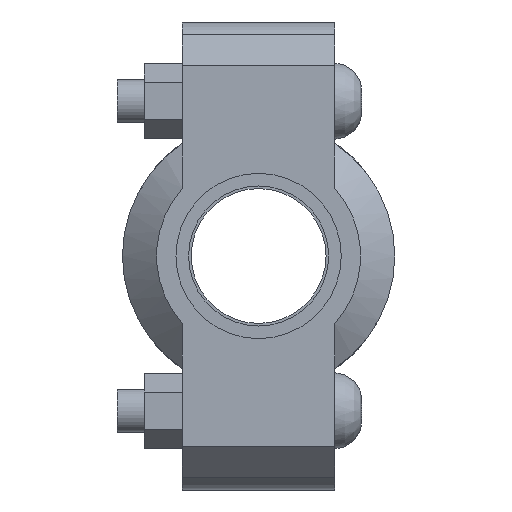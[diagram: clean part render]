
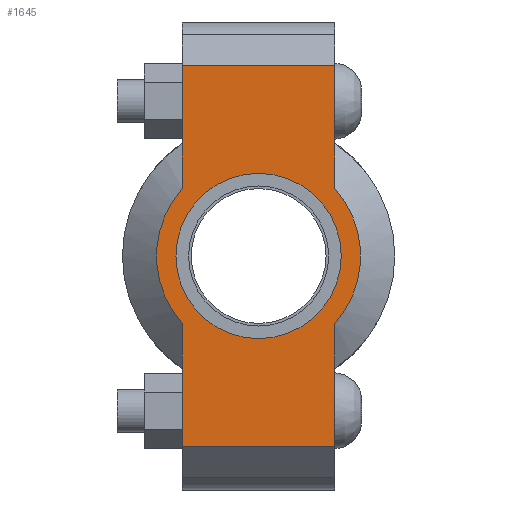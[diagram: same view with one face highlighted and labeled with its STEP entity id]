
A CAD part, left-side view. The second image highlights one B-rep face of the part: STEP entity #1645.
In plain terms, the highlighted planar face has unit normal (-1, 0, 0) as drawn and (0, 0, 1) by its records, which use the part's own axes.
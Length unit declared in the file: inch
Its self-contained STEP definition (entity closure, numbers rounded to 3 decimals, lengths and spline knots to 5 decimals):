
#200=LINE('',#2845,#297);
#215=LINE('',#2904,#312);
#223=LINE('',#2934,#320);
#225=LINE('',#2937,#322);
#226=LINE('',#2942,#323);
#227=LINE('',#2943,#324);
#297=VECTOR('',#2309,0.3937);
#312=VECTOR('',#2344,0.3937);
#320=VECTOR('',#2364,0.3937);
#322=VECTOR('',#2368,0.3937);
#323=VECTOR('',#2373,0.3937);
#324=VECTOR('',#2374,0.3937);
#388=FACE_BOUND('',#565,.T.);
#456=FACE_OUTER_BOUND('',#564,.T.);
#564=EDGE_LOOP('',(#1346,#1347,#1348,#1349,#1350,#1351,#1352,#1353));
#565=EDGE_LOOP('',(#1354));
#647=CIRCLE('',#1873,0.95);
#671=CIRCLE('',#1925,1.172);
#672=CIRCLE('',#1926,1.172);
#743=VERTEX_POINT('',#2671);
#784=VERTEX_POINT('',#2842);
#785=VERTEX_POINT('',#2844);
#806=VERTEX_POINT('',#2899);
#807=VERTEX_POINT('',#2903);
#816=VERTEX_POINT('',#2929);
#817=VERTEX_POINT('',#2933);
#818=VERTEX_POINT('',#2939);
#819=VERTEX_POINT('',#2941);
#907=EDGE_CURVE('',#743,#743,#647,.T.);
#964=EDGE_CURVE('',#785,#784,#200,.T.);
#989=EDGE_CURVE('',#807,#806,#215,.T.);
#1002=EDGE_CURVE('',#817,#816,#223,.T.);
#1004=EDGE_CURVE('',#817,#784,#225,.T.);
#1005=EDGE_CURVE('',#816,#818,#671,.T.);
#1006=EDGE_CURVE('',#818,#819,#226,.T.);
#1007=EDGE_CURVE('',#807,#819,#227,.T.);
#1008=EDGE_CURVE('',#806,#785,#672,.T.);
#1346=ORIENTED_EDGE('',*,*,#1004,.F.);
#1347=ORIENTED_EDGE('',*,*,#1002,.T.);
#1348=ORIENTED_EDGE('',*,*,#1005,.T.);
#1349=ORIENTED_EDGE('',*,*,#1006,.T.);
#1350=ORIENTED_EDGE('',*,*,#1007,.F.);
#1351=ORIENTED_EDGE('',*,*,#989,.T.);
#1352=ORIENTED_EDGE('',*,*,#1008,.T.);
#1353=ORIENTED_EDGE('',*,*,#964,.T.);
#1354=ORIENTED_EDGE('',*,*,#907,.T.);
#1485=PLANE('',#1924);
#1645=ADVANCED_FACE('',(#456,#388),#1485,.T.);
#1873=AXIS2_PLACEMENT_3D('',#2673,#2199,#2200);
#1924=AXIS2_PLACEMENT_3D('',#2938,#2369,#2370);
#1925=AXIS2_PLACEMENT_3D('',#2940,#2371,#2372);
#1926=AXIS2_PLACEMENT_3D('',#2944,#2375,#2376);
#2199=DIRECTION('center_axis',(0.,0.,-1.));
#2200=DIRECTION('ref_axis',(-1.,0.,0.));
#2309=DIRECTION('',(-1.,0.,0.));
#2344=DIRECTION('',(-1.,0.,0.));
#2364=DIRECTION('',(1.,0.,0.));
#2368=DIRECTION('',(0.,1.,0.));
#2369=DIRECTION('center_axis',(0.,0.,1.));
#2370=DIRECTION('ref_axis',(1.,0.,0.));
#2371=DIRECTION('center_axis',(0.,0.,1.));
#2372=DIRECTION('ref_axis',(-1.,0.,0.));
#2373=DIRECTION('',(1.,0.,0.));
#2374=DIRECTION('',(0.,-1.,0.));
#2375=DIRECTION('center_axis',(0.,0.,1.));
#2376=DIRECTION('ref_axis',(-1.,0.,0.));
#2671=CARTESIAN_POINT('',(0.95,0.,0.94));
#2673=CARTESIAN_POINT('Origin',(0.,0.,0.94));
#2842=CARTESIAN_POINT('',(-2.19,0.875,0.94));
#2844=CARTESIAN_POINT('',(-0.77972,0.875,0.94));
#2845=CARTESIAN_POINT('',(2.69,0.875,0.94));
#2899=CARTESIAN_POINT('',(0.77972,0.875,0.94));
#2903=CARTESIAN_POINT('',(2.19,0.875,0.94));
#2904=CARTESIAN_POINT('',(2.69,0.875,0.94));
#2929=CARTESIAN_POINT('',(-0.77972,-0.875,0.94));
#2933=CARTESIAN_POINT('',(-2.19,-0.875,0.94));
#2934=CARTESIAN_POINT('',(-2.69,-0.875,0.94));
#2937=CARTESIAN_POINT('',(-2.19,0.4375,0.94));
#2938=CARTESIAN_POINT('Origin',(0.,0.,0.94));
#2939=CARTESIAN_POINT('',(0.77972,-0.875,0.94));
#2940=CARTESIAN_POINT('Origin',(0.,0.,0.94));
#2941=CARTESIAN_POINT('',(2.19,-0.875,0.94));
#2942=CARTESIAN_POINT('',(-2.69,-0.875,0.94));
#2943=CARTESIAN_POINT('',(2.19,-0.4375,0.94));
#2944=CARTESIAN_POINT('Origin',(0.,0.,0.94));
